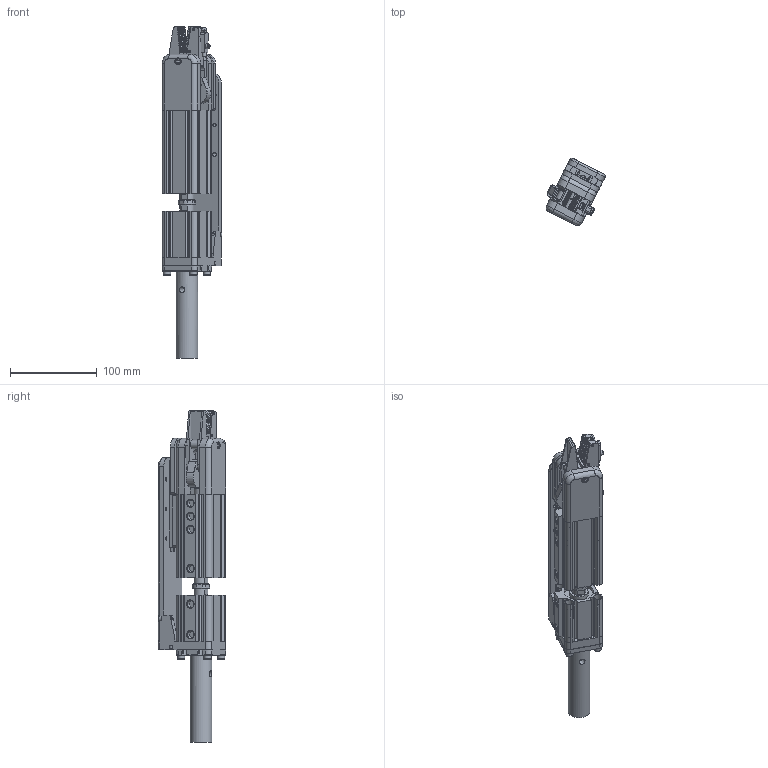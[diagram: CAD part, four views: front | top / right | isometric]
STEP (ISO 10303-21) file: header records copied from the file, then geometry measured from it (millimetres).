
FILE_DESCRIPTION(/* description */ (''),/* implementation_level */ '2;1');
FILE_NAME(/* name */ '8Y00469-GRP32A-3020CP--25.stp',/* time_stamp */ '2023-02-22T14:05:40+08:00',/* author */ (''),/* organization */ (''),/* preprocessor_version */ 'ST-DEVELOPER v16',/* originating_system */ 'SIEMENS PLM Software NX 10.0',/* authorisation */ '');
FILE_SCHEMA (('AUTOMOTIVE_DESIGN { 1 0 10303 214 3 1 1 1 }'));
Products named in the file (1): _model43
Bounding box: 68.83 x 77.89 x 381.73 mm (x, y, z)
Volume: 512196.5 mm3; surface area: 214258.5 mm2
Topology: 34 solids, 59 shells, 2934 faces, 6427 edges, 3662 vertices
Faces by surface type: plane 2246, cylinder 439, cone 174, revolution 33, sphere 28, bspline 8, torus 6
Full cylindrical faces by diameter (mm): 2.5 x5, 3 x5, 3.1 x2, 3.242 x2, 3.3 x6, 3.4 x3, 4 x15, 4.1 x2, 4.2 x16, 4.5 x10, 4.917 x8, 5 x14, 5.2 x12, 5.5 x9, 6 x16, 6.5 x2, 6.647 x3, 6.8 x1, 7 x17, 8 x13, 8.1 x2, 8.5 x13, 8.566 x6, 8.6 x2, 9 x16, 10 x4, 13 x4, 13.5 x1, 14 x1, 15 x3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
Entity records: 96743 total; most frequent: CARTESIAN_POINT 15136, DIRECTION 12715, ORIENTED_EDGE 11522, EDGE_CURVE 5761, LINE 4264, VECTOR 4264, AXIS2_PLACEMENT_3D 4209, EDGE_LOOP 3552
